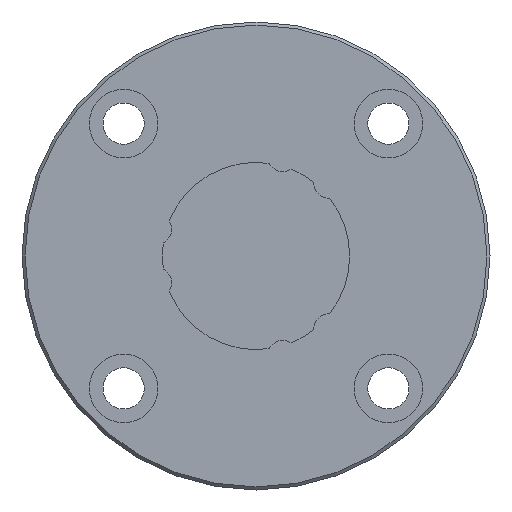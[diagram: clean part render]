
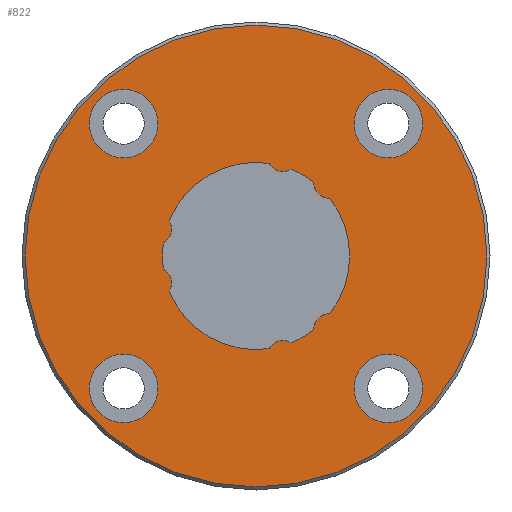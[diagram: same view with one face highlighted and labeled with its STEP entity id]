
A CAD part, left-side view. The second image highlights one B-rep face of the part: STEP entity #822.
In plain terms, the highlighted planar face has unit normal (-1, 0, 0).
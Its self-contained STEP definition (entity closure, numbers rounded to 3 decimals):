
#44=PLANE('',#927);
#175=ORIENTED_EDGE('',*,*,#351,.F.);
#176=ORIENTED_EDGE('',*,*,#352,.F.);
#177=ORIENTED_EDGE('',*,*,#353,.F.);
#178=ORIENTED_EDGE('',*,*,#354,.F.);
#179=ORIENTED_EDGE('',*,*,#355,.F.);
#180=ORIENTED_EDGE('',*,*,#356,.T.);
#181=ORIENTED_EDGE('',*,*,#357,.F.);
#182=ORIENTED_EDGE('',*,*,#358,.T.);
#183=ORIENTED_EDGE('',*,*,#359,.F.);
#184=ORIENTED_EDGE('',*,*,#360,.T.);
#185=ORIENTED_EDGE('',*,*,#361,.F.);
#186=ORIENTED_EDGE('',*,*,#362,.T.);
#187=ORIENTED_EDGE('',*,*,#363,.F.);
#188=ORIENTED_EDGE('',*,*,#364,.T.);
#189=ORIENTED_EDGE('',*,*,#365,.F.);
#190=ORIENTED_EDGE('',*,*,#366,.T.);
#191=ORIENTED_EDGE('',*,*,#367,.F.);
#351=EDGE_CURVE('',#445,#445,#523,.T.);
#352=EDGE_CURVE('',#446,#446,#524,.F.);
#353=EDGE_CURVE('',#447,#447,#525,.F.);
#354=EDGE_CURVE('',#448,#448,#526,.F.);
#355=EDGE_CURVE('',#449,#449,#527,.F.);
#356=EDGE_CURVE('',#450,#451,#528,.T.);
#357=EDGE_CURVE('',#452,#451,#529,.T.);
#358=EDGE_CURVE('',#452,#453,#530,.T.);
#359=EDGE_CURVE('',#454,#453,#531,.T.);
#360=EDGE_CURVE('',#454,#455,#532,.T.);
#361=EDGE_CURVE('',#456,#455,#533,.T.);
#362=EDGE_CURVE('',#456,#457,#534,.T.);
#363=EDGE_CURVE('',#458,#457,#535,.T.);
#364=EDGE_CURVE('',#458,#459,#536,.T.);
#365=EDGE_CURVE('',#460,#459,#537,.T.);
#366=EDGE_CURVE('',#460,#461,#538,.T.);
#367=EDGE_CURVE('',#450,#461,#539,.T.);
#445=VERTEX_POINT('',#1439);
#446=VERTEX_POINT('',#1441);
#447=VERTEX_POINT('',#1443);
#448=VERTEX_POINT('',#1445);
#449=VERTEX_POINT('',#1447);
#450=VERTEX_POINT('',#1449);
#451=VERTEX_POINT('',#1450);
#452=VERTEX_POINT('',#1452);
#453=VERTEX_POINT('',#1454);
#454=VERTEX_POINT('',#1456);
#455=VERTEX_POINT('',#1458);
#456=VERTEX_POINT('',#1460);
#457=VERTEX_POINT('',#1462);
#458=VERTEX_POINT('',#1464);
#459=VERTEX_POINT('',#1466);
#460=VERTEX_POINT('',#1468);
#461=VERTEX_POINT('',#1470);
#523=CIRCLE('',#928,37.);
#524=CIRCLE('',#929,5.5);
#525=CIRCLE('',#930,5.5);
#526=CIRCLE('',#931,5.5);
#527=CIRCLE('',#932,5.5);
#528=CIRCLE('',#933,15.);
#529=CIRCLE('',#934,2.5);
#530=CIRCLE('',#935,15.);
#531=CIRCLE('',#936,2.5);
#532=CIRCLE('',#937,15.);
#533=CIRCLE('',#938,2.5);
#534=CIRCLE('',#939,15.);
#535=CIRCLE('',#940,2.5);
#536=CIRCLE('',#941,15.);
#537=CIRCLE('',#942,2.5);
#538=CIRCLE('',#943,15.);
#539=CIRCLE('',#944,2.5);
#593=EDGE_LOOP('',(#175));
#594=EDGE_LOOP('',(#176));
#595=EDGE_LOOP('',(#177));
#596=EDGE_LOOP('',(#178));
#597=EDGE_LOOP('',(#179));
#598=EDGE_LOOP('',(#180,#181,#182,#183,#184,#185,#186,#187,#188,#189,#190,
#191));
#689=FACE_BOUND('',#593,.T.);
#690=FACE_BOUND('',#594,.T.);
#691=FACE_BOUND('',#595,.T.);
#692=FACE_BOUND('',#596,.T.);
#693=FACE_BOUND('',#597,.T.);
#694=FACE_BOUND('',#598,.T.);
#822=ADVANCED_FACE('',(#689,#690,#691,#692,#693,#694),#44,.F.);
#927=AXIS2_PLACEMENT_3D('',#1437,#1114,#1115);
#928=AXIS2_PLACEMENT_3D('',#1438,#1116,#1117);
#929=AXIS2_PLACEMENT_3D('',#1440,#1118,#1119);
#930=AXIS2_PLACEMENT_3D('',#1442,#1120,#1121);
#931=AXIS2_PLACEMENT_3D('',#1444,#1122,#1123);
#932=AXIS2_PLACEMENT_3D('',#1446,#1124,#1125);
#933=AXIS2_PLACEMENT_3D('',#1448,#1126,#1127);
#934=AXIS2_PLACEMENT_3D('',#1451,#1128,#1129);
#935=AXIS2_PLACEMENT_3D('',#1453,#1130,#1131);
#936=AXIS2_PLACEMENT_3D('',#1455,#1132,#1133);
#937=AXIS2_PLACEMENT_3D('',#1457,#1134,#1135);
#938=AXIS2_PLACEMENT_3D('',#1459,#1136,#1137);
#939=AXIS2_PLACEMENT_3D('',#1461,#1138,#1139);
#940=AXIS2_PLACEMENT_3D('',#1463,#1140,#1141);
#941=AXIS2_PLACEMENT_3D('',#1465,#1142,#1143);
#942=AXIS2_PLACEMENT_3D('',#1467,#1144,#1145);
#943=AXIS2_PLACEMENT_3D('',#1469,#1146,#1147);
#944=AXIS2_PLACEMENT_3D('',#1471,#1148,#1149);
#1114=DIRECTION('',(1.,0.,0.));
#1115=DIRECTION('',(0.,0.,-1.));
#1116=DIRECTION('',(1.,0.,0.));
#1117=DIRECTION('',(0.,0.,-1.));
#1118=DIRECTION('',(1.,0.,0.));
#1119=DIRECTION('',(0.,0.,-1.));
#1120=DIRECTION('',(1.,0.,0.));
#1121=DIRECTION('',(0.,0.,-1.));
#1122=DIRECTION('',(1.,0.,0.));
#1123=DIRECTION('',(0.,0.,-1.));
#1124=DIRECTION('',(1.,0.,0.));
#1125=DIRECTION('',(0.,0.,-1.));
#1126=DIRECTION('',(1.,0.,0.));
#1127=DIRECTION('',(0.,0.,-1.));
#1128=DIRECTION('',(1.,0.,0.));
#1129=DIRECTION('',(0.,0.,-1.));
#1130=DIRECTION('',(1.,0.,0.));
#1131=DIRECTION('',(0.,0.,-1.));
#1132=DIRECTION('',(1.,0.,0.));
#1133=DIRECTION('',(0.,0.,-1.));
#1134=DIRECTION('',(1.,0.,0.));
#1135=DIRECTION('',(0.,0.,-1.));
#1136=DIRECTION('',(1.,0.,0.));
#1137=DIRECTION('',(0.,0.,-1.));
#1138=DIRECTION('',(1.,0.,0.));
#1139=DIRECTION('',(0.,0.,-1.));
#1140=DIRECTION('',(1.,0.,0.));
#1141=DIRECTION('',(0.,0.,-1.));
#1142=DIRECTION('',(1.,0.,0.));
#1143=DIRECTION('',(0.,0.,-1.));
#1144=DIRECTION('',(1.,0.,0.));
#1145=DIRECTION('',(0.,0.,-1.));
#1146=DIRECTION('',(1.,0.,0.));
#1147=DIRECTION('',(0.,0.,-1.));
#1148=DIRECTION('',(1.,0.,0.));
#1149=DIRECTION('',(0.,0.,-1.));
#1437=CARTESIAN_POINT('',(0.,0.,0.));
#1438=CARTESIAN_POINT('',(0.,0.,0.));
#1439=CARTESIAN_POINT('',(0.,0.,-37.));
#1440=CARTESIAN_POINT('',(0.,-21.213,21.213));
#1441=CARTESIAN_POINT('',(0.,-21.213,15.713));
#1442=CARTESIAN_POINT('',(0.,-21.213,-21.213));
#1443=CARTESIAN_POINT('',(0.,-21.213,-26.713));
#1444=CARTESIAN_POINT('',(0.,21.213,-21.213));
#1445=CARTESIAN_POINT('',(0.,21.213,-26.713));
#1446=CARTESIAN_POINT('',(0.,21.213,21.213));
#1447=CARTESIAN_POINT('',(0.,21.213,15.713));
#1448=CARTESIAN_POINT('',(0.,0.,0.));
#1449=CARTESIAN_POINT('',(0.,14.853,-2.093));
#1450=CARTESIAN_POINT('',(0.,14.853,2.093));
#1451=CARTESIAN_POINT('',(0.,16.034,4.296));
#1452=CARTESIAN_POINT('',(0.,13.91,5.614));
#1453=CARTESIAN_POINT('',(0.,0.,0.));
#1454=CARTESIAN_POINT('',(0.,-2.093,14.853));
#1455=CARTESIAN_POINT('',(0.,-4.296,16.034));
#1456=CARTESIAN_POINT('',(0.,-5.614,13.91));
#1457=CARTESIAN_POINT('',(0.,0.,0.));
#1458=CARTESIAN_POINT('',(0.,-9.239,11.817));
#1459=CARTESIAN_POINT('',(0.,-11.738,11.738));
#1460=CARTESIAN_POINT('',(0.,-11.817,9.239));
#1461=CARTESIAN_POINT('',(0.,0.,0.));
#1462=CARTESIAN_POINT('',(0.,-11.817,-9.239));
#1463=CARTESIAN_POINT('',(0.,-11.738,-11.738));
#1464=CARTESIAN_POINT('',(0.,-9.239,-11.817));
#1465=CARTESIAN_POINT('',(0.,0.,0.));
#1466=CARTESIAN_POINT('',(0.,-5.614,-13.91));
#1467=CARTESIAN_POINT('',(0.,-4.296,-16.034));
#1468=CARTESIAN_POINT('',(0.,-2.093,-14.853));
#1469=CARTESIAN_POINT('',(0.,0.,0.));
#1470=CARTESIAN_POINT('',(0.,13.91,-5.614));
#1471=CARTESIAN_POINT('',(0.,16.034,-4.296));
